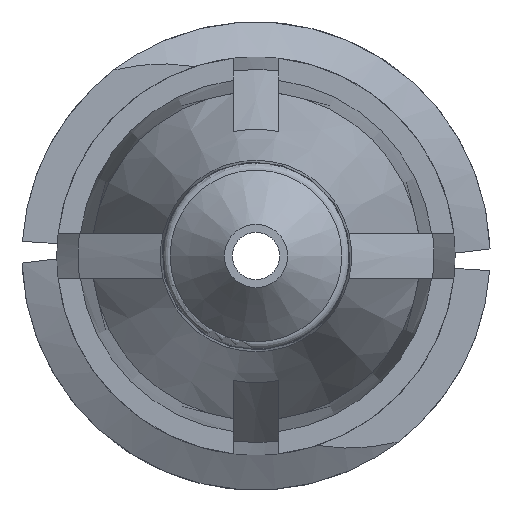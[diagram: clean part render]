
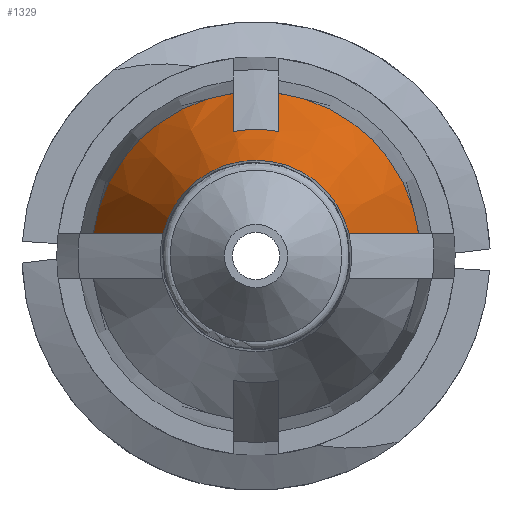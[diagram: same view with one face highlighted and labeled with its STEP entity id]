
A CAD part, front view. The second image highlights one B-rep face of the part: STEP entity #1329.
In plain terms, the highlighted conical face has half-angle 20 degrees and reference radius 2.745 mm.
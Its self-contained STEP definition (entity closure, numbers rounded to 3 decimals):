
#100 = EDGE_CURVE ( 'NONE', #905, #144, #1412, .T. ) ;
#117 = DIRECTION ( 'NONE',  ( 1., 0., 0. ) ) ;
#133 = DIRECTION ( 'NONE',  ( 0., 1., 0. ) ) ;
#139 = CARTESIAN_POINT ( 'NONE',  ( 2.333, -11.362, 0.381 ) ) ;
#144 = VERTEX_POINT ( 'NONE', #1008 ) ;
#153 = AXIS2_PLACEMENT_3D ( 'NONE', #1235, #1401, #1893 ) ;
#287 = CARTESIAN_POINT ( 'NONE',  ( 1.947, -12.411, 0.381 ) ) ;
#302 = VERTEX_POINT ( 'NONE', #1793 ) ;
#429 = EDGE_CURVE ( 'NONE', #144, #1888, #1852, .T. ) ;
#503 = CARTESIAN_POINT ( 'NONE',  ( -0.381, -10.888, 2.507 ) ) ;
#550 = B_SPLINE_CURVE_WITH_KNOTS ( 'NONE', 3,
 ( #1748, #139, #287, #1307 ),
 .UNSPECIFIED., .F., .F.,
 ( 4, 4 ),
 ( 0.003, 0.007 ),
 .UNSPECIFIED. ) ;
#600 = VERTEX_POINT ( 'NONE', #1727 ) ;
#614 = ORIENTED_EDGE ( 'NONE', *, *, #1282, .F. ) ;
#626 = CIRCLE ( 'NONE', #725, 2.745 ) ;
#645 = EDGE_CURVE ( 'NONE', #600, #1888, #550, .T. ) ;
#682 = DIRECTION ( 'NONE',  ( 0., 1., 0. ) ) ;
#683 = CARTESIAN_POINT ( 'NONE',  ( -1.947, -12.411, 0.381 ) ) ;
#697 = CARTESIAN_POINT ( 'NONE',  ( -2.719, -10.312, 0.381 ) ) ;
#725 = AXIS2_PLACEMENT_3D ( 'NONE', #1037, #1540, #919 ) ;
#758 = EDGE_CURVE ( 'NONE', #302, #800, #1688, .T. ) ;
#759 = CONICAL_SURFACE ( 'NONE', #1301, 2.745, 0.349 ) ;
#777 = DIRECTION ( 'NONE',  ( 1., 0., 0. ) ) ;
#800 = VERTEX_POINT ( 'NONE', #1163 ) ;
#824 = DIRECTION ( 'NONE',  ( 1., 0., 0. ) ) ;
#832 = EDGE_CURVE ( 'NONE', #1850, #934, #1889, .T. ) ;
#833 = CARTESIAN_POINT ( 'NONE',  ( 0., -13.458, 0. ) ) ;
#868 = DIRECTION ( 'NONE',  ( 0., 1., 0. ) ) ;
#898 = CARTESIAN_POINT ( 'NONE',  ( -2.719, -10.312, 0.381 ) ) ;
#905 = VERTEX_POINT ( 'NONE', #898 ) ;
#919 = DIRECTION ( 'NONE',  ( 1., 0., 0. ) ) ;
#934 = VERTEX_POINT ( 'NONE', #1109 ) ;
#979 = ORIENTED_EDGE ( 'NONE', *, *, #429, .T. ) ;
#1006 = CARTESIAN_POINT ( 'NONE',  ( 1.554, -13.458, 0.381 ) ) ;
#1008 = CARTESIAN_POINT ( 'NONE',  ( -1.554, -13.458, 0.381 ) ) ;
#1031 = AXIS2_PLACEMENT_3D ( 'NONE', #2058, #868, #117 ) ;
#1037 = CARTESIAN_POINT ( 'NONE',  ( 0., -10.312, 0. ) ) ;
#1040 = CARTESIAN_POINT ( 'NONE',  ( 0.381, -10.312, 2.719 ) ) ;
#1056 = EDGE_LOOP ( 'NONE', ( #1243, #1568, #1336, #1596, #2091, #614, #1591, #979 ) ) ;
#1097 = FACE_OUTER_BOUND ( 'NONE', #1056, .T. ) ;
#1109 = CARTESIAN_POINT ( 'NONE',  ( 0.381, -12.038, 2.082 ) ) ;
#1163 = CARTESIAN_POINT ( 'NONE',  ( -0.381, -10.312, 2.719 ) ) ;
#1174 = CARTESIAN_POINT ( 'NONE',  ( -0.381, -10.312, 2.719 ) ) ;
#1221 = CARTESIAN_POINT ( 'NONE',  ( 0.381, -11.463, 2.295 ) ) ;
#1235 = CARTESIAN_POINT ( 'NONE',  ( 0., -12.038, 0. ) ) ;
#1243 = ORIENTED_EDGE ( 'NONE', *, *, #645, .F. ) ;
#1282 = EDGE_CURVE ( 'NONE', #905, #800, #626, .T. ) ;
#1284 = EDGE_CURVE ( 'NONE', #1850, #600, #1376, .T. ) ;
#1301 = AXIS2_PLACEMENT_3D ( 'NONE', #1753, #133, #777 ) ;
#1307 = CARTESIAN_POINT ( 'NONE',  ( 1.554, -13.458, 0.381 ) ) ;
#1329 = ADVANCED_FACE ( 'NONE', ( #1097 ), #759, .T. ) ;
#1336 = ORIENTED_EDGE ( 'NONE', *, *, #832, .T. ) ;
#1374 = AXIS2_PLACEMENT_3D ( 'NONE', #833, #682, #824 ) ;
#1376 = CIRCLE ( 'NONE', #1031, 2.745 ) ;
#1401 = DIRECTION ( 'NONE',  ( 0., -1., 0. ) ) ;
#1412 = B_SPLINE_CURVE_WITH_KNOTS ( 'NONE', 3,
 ( #697, #1828, #683, #2006 ),
 .UNSPECIFIED., .F., .F.,
 ( 4, 4 ),
 ( 0.003, 0.007 ),
 .UNSPECIFIED. ) ;
#1540 = DIRECTION ( 'NONE',  ( 0., 1., 0. ) ) ;
#1568 = ORIENTED_EDGE ( 'NONE', *, *, #1284, .F. ) ;
#1591 = ORIENTED_EDGE ( 'NONE', *, *, #100, .T. ) ;
#1596 = ORIENTED_EDGE ( 'NONE', *, *, #1918, .T. ) ;
#1633 = CARTESIAN_POINT ( 'NONE',  ( -0.381, -12.038, 2.082 ) ) ;
#1648 = CARTESIAN_POINT ( 'NONE',  ( 0.381, -10.312, 2.719 ) ) ;
#1683 = CIRCLE ( 'NONE', #153, 2.117 ) ;
#1688 = B_SPLINE_CURVE_WITH_KNOTS ( 'NONE', 3,
 ( #1633, #1978, #503, #1174 ),
 .UNSPECIFIED., .F., .F.,
 ( 4, 4 ),
 ( 0.002, 0.004 ),
 .UNSPECIFIED. ) ;
#1702 = CARTESIAN_POINT ( 'NONE',  ( 0.381, -10.888, 2.507 ) ) ;
#1727 = CARTESIAN_POINT ( 'NONE',  ( 2.719, -10.312, 0.381 ) ) ;
#1732 = CARTESIAN_POINT ( 'NONE',  ( 0.381, -12.038, 2.082 ) ) ;
#1748 = CARTESIAN_POINT ( 'NONE',  ( 2.719, -10.312, 0.381 ) ) ;
#1753 = CARTESIAN_POINT ( 'NONE',  ( 0., -10.312, 0. ) ) ;
#1793 = CARTESIAN_POINT ( 'NONE',  ( -0.381, -12.038, 2.082 ) ) ;
#1828 = CARTESIAN_POINT ( 'NONE',  ( -2.333, -11.362, 0.381 ) ) ;
#1850 = VERTEX_POINT ( 'NONE', #1648 ) ;
#1852 = CIRCLE ( 'NONE', #1374, 1.6 ) ;
#1888 = VERTEX_POINT ( 'NONE', #1006 ) ;
#1889 = B_SPLINE_CURVE_WITH_KNOTS ( 'NONE', 3,
 ( #1040, #1702, #1221, #1732 ),
 .UNSPECIFIED., .F., .F.,
 ( 4, 4 ),
 ( 0.003, 0.005 ),
 .UNSPECIFIED. ) ;
#1893 = DIRECTION ( 'NONE',  ( -1., 0., 0. ) ) ;
#1918 = EDGE_CURVE ( 'NONE', #934, #302, #1683, .T. ) ;
#1978 = CARTESIAN_POINT ( 'NONE',  ( -0.381, -11.463, 2.295 ) ) ;
#2006 = CARTESIAN_POINT ( 'NONE',  ( -1.554, -13.458, 0.381 ) ) ;
#2058 = CARTESIAN_POINT ( 'NONE',  ( 0., -10.312, 0. ) ) ;
#2091 = ORIENTED_EDGE ( 'NONE', *, *, #758, .T. ) ;
